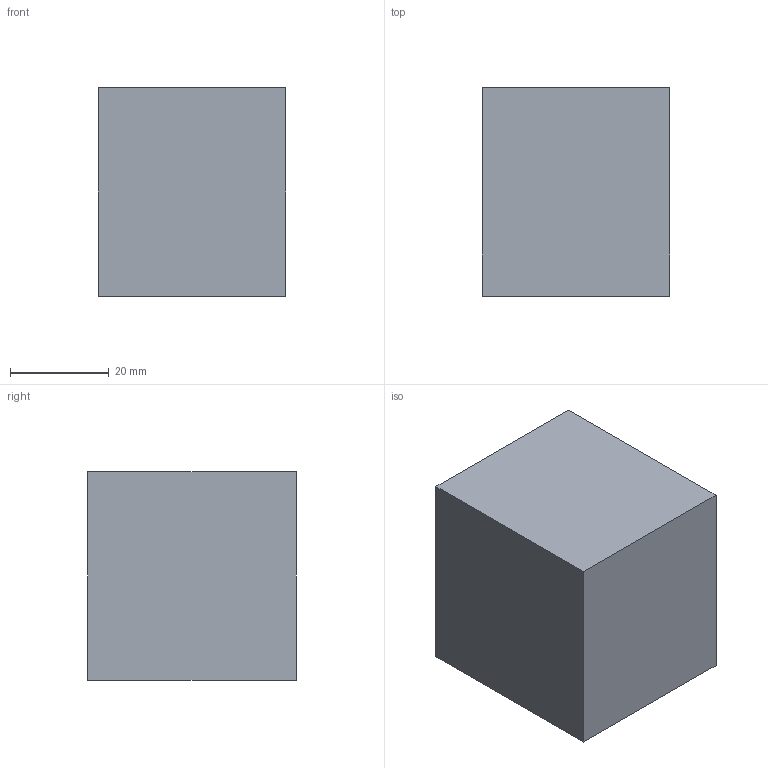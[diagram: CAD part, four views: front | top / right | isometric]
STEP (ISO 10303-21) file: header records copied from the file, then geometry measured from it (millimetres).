
FILE_DESCRIPTION(('Open CASCADE Model'),'2;1');
FILE_NAME('Open CASCADE Shape Model','2026-10-06T03:35:42',('Author'),( 'Open CASCADE'),'Open CASCADE STEP processor 7.8','Open CASCADE 7.8' ,'Unknown');
FILE_SCHEMA(('AUTOMOTIVE_DESIGN { 1 0 10303 214 1 1 1 1 }'));
Length unit declared in the file: millimetre
Products named in the file (1): Open CASCADE STEP translator 7.8 2
Bounding box: 38 x 42.3 x 42.3 mm (x, y, z)
Volume: 67993 mm3; surface area: 10008.2 mm2
Topology: 1 solids, 1 shells, 6 faces, 12 edges, 8 vertices
Faces by surface type: plane 6
Entity records: 322 total; most frequent: CARTESIAN_POINT 51, DIRECTION 50, LINE 36, VECTOR 36, ORIENTED_EDGE 24, PCURVE 24, DEFINITIONAL_REPRESENTATION 24, EDGE_CURVE 12
